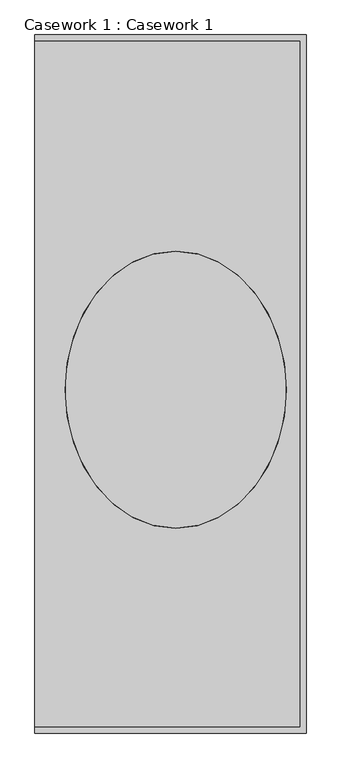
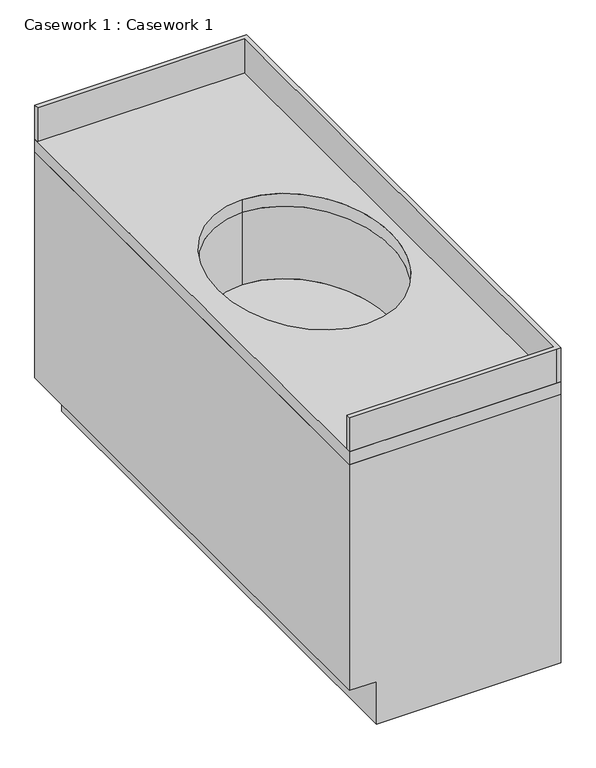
"""IFC4 building model written with IfcOpenShell, lengths in millimetres: furniture geometry, Casework 1 : Casework 1."""

from ifc_helpers import new_model, si_unit, point, frame, origin, place, context, project, spatial, polyline, ellipse_curve, trimmed, outline, extrude, source, transform, mapped, element, save
from ifc_brep_helpers import plane_surface, extruded_surface, advanced_brep


def casework_1_casework_1_399aaf37(model_context):
    return source(origin(), model_context, "Body", "SolidModel", [
        advanced_brep(
        [(-1460.5, 10833.1, 838.2), (-1460.5, 12369.8, 838.2), (-2057.4, 12369.8, 838.2), (-2057.4, 10833.1, 838.2), (-1747.480192, 11283.95, 838.2), (-1747.480192, 11893.55, 838.2), (-1460.5, 10833.1, 800.1), (-2057.4, 10833.1, 800.1), (-2057.4, 12369.8, 800.1), (-1460.5, 12369.8, 800.1), (-1747.480192, 11893.55, 800.1), (-1747.480192, 11283.95, 800.1)],
        [
            (0, 1),
            (1, 2),
            (2, 3),
            (3, 0),
            (4, 5, ellipse_curve(frame((-1747.480192, 11588.75, 838.2), z_axis=(0.0, 0.0, -1.0), x_axis=(0.0, 1.0, 0.0)), 304.8, 243.244808)),
            (5, 4, ellipse_curve(frame((-1747.480192, 11588.75, 838.2), z_axis=(0.0, 0.0, -1.0), x_axis=(0.0, 1.0, 0.0)), 304.8, 243.244808)),
            (6, 7),
            (7, 8),
            (8, 9),
            (9, 6),
            (10, 11, ellipse_curve(frame((-1747.480192, 11588.75, 800.1), z_axis=(0.0, 0.0, 1.0), x_axis=(0.0, 1.0, 0.0)), 304.8, 243.244808)),
            (11, 10, ellipse_curve(frame((-1747.480192, 11588.75, 800.1), z_axis=(0.0, 0.0, 1.0), x_axis=(0.0, 1.0, 0.0)), 304.8, 243.244808)),
            (0, 6),
            (9, 1),
            (8, 2),
            (7, 3),
            (4, 11),
            (10, 5),
        ],
        [
            plane_surface(frame((-1460.5, 12369.8, 838.2), z_axis=(0.0, 0.0, 1.0), x_axis=(0.0, 1.0, 0.0))),
            plane_surface(frame((-1460.5, 12369.8, 800.1), z_axis=(0.0, 0.0, -1.0), x_axis=(0.0, -1.0, 0.0))),
            plane_surface(frame((-1460.5, 10833.1, 838.2), z_axis=(1.0, 0.0, 0.0), x_axis=(0.0, 0.0, -1.0))),
            plane_surface(frame((-1460.5, 12369.8, 838.2), z_axis=(0.0, 1.0, 0.0), x_axis=(0.0, 0.0, -1.0))),
            plane_surface(frame((-2057.4, 12369.8, 838.2), z_axis=(-1.0, 0.0, 0.0), x_axis=(0.0, 0.0, -1.0))),
            plane_surface(frame((-2057.4, 10833.1, 838.2), z_axis=(0.0, -1.0, 0.0), x_axis=(0.0, 0.0, -1.0))),
            extruded_surface(trimmed(ellipse_curve(frame((-1747.480192, 11588.75, 838.2), z_axis=(0.0, 0.0, -1.0), x_axis=(0.0, 1.0, 0.0)), 304.8, 243.244808), [point((-1747.480192, 11283.95, 838.2))], [point((-1747.480192, 11893.55, 838.2))], True, "CARTESIAN"), (0.0, 0.0, 254.0), 254.0),
            extruded_surface(trimmed(ellipse_curve(frame((-1747.480192, 11588.75, 838.2), z_axis=(0.0, 0.0, -1.0), x_axis=(0.0, 1.0, 0.0)), 304.8, 243.244808), [point((-1747.480192, 11893.55, 838.2))], [point((-1747.480192, 11283.95, 838.2))], True, "CARTESIAN"), (0.0, 0.0, 254.0), 254.0),
        ],
        [
            (0, [[1, 2, 3, 4], [5, 6]]),
            (1, [[7, 8, 9, 10], [11, 12]]),
            (2, [[-1, 13, -10, 14]]),
            (3, [[-2, -14, -9, 15]]),
            (4, [[-3, -15, -8, 16]]),
            (5, [[-4, -16, -7, -13]]),
            (6, [[17, -11, 18, -5]]),
            (7, [[-17, -6, -18, -12]]),
        ],
    ),
        extrude(outline(polyline([(-1473.2, 12369.8), (-1460.5, 12369.8), (-1460.5, 10833.1), (-1473.2, 10833.1), (-2057.4, 10833.1), (-2057.4, 10845.8), (-1473.2, 10845.8), (-1473.2, 12357.1), (-2057.4, 12357.1), (-2057.4, 12369.8), (-1473.2, 12369.8)])), frame((0.0, 0.0, 838.2), z_axis=(0.0, 0.0, 1.0), x_axis=(1.0, 0.0, 0.0)), (0.0, 0.0, 1.0), 101.6),
        advanced_brep(
        [(-1460.5, 12369.8, 800.1), (-2057.4, 12369.8, 800.1), (-2057.4, 10833.1, 800.1), (-1460.5, 10833.1, 800.1), (-1747.480192, 11283.95, 800.1), (-1747.480192, 11893.55, 800.1), (-1460.5, 12369.8, 0.0), (-1460.5, 10833.1, 0.0), (-1981.2, 10833.1, 0.0), (-1981.2, 12369.8, 0.0), (-1981.2, 12369.8, 127.0), (-2057.4, 12369.8, 127.0), (-2057.4, 10833.1, 127.0), (-1981.2, 10833.1, 127.0), (-1747.480192, 11283.95, 584.2), (-1747.480192, 11893.55, 584.2)],
        [
            (0, 1),
            (1, 2),
            (2, 3),
            (3, 0),
            (4, 5, ellipse_curve(frame((-1747.480192, 11588.75, 800.1), z_axis=(0.0, 0.0, -1.0), x_axis=(0.0, 1.0, 0.0)), 304.8, 243.244808)),
            (5, 4, ellipse_curve(frame((-1747.480192, 11588.75, 800.1), z_axis=(0.0, 0.0, -1.0), x_axis=(0.0, 1.0, 0.0)), 304.8, 243.244808)),
            (6, 7),
            (7, 8),
            (8, 9),
            (9, 6),
            (0, 6),
            (9, 10),
            (10, 11),
            (11, 1),
            (11, 12),
            (12, 2),
            (12, 13),
            (13, 8),
            (7, 3),
            (13, 10),
            (14, 15, ellipse_curve(frame((-1747.480192, 11588.75, 584.2), z_axis=(0.0, 0.0, 1.0), x_axis=(0.0, 1.0, 0.0)), 304.8, 243.244808)),
            (15, 14, ellipse_curve(frame((-1747.480192, 11588.75, 584.2), z_axis=(0.0, 0.0, 1.0), x_axis=(0.0, 1.0, 0.0)), 304.8, 243.244808)),
            (15, 5),
            (4, 14),
        ],
        [
            plane_surface(frame((-2057.4, 12369.8, 800.1), z_axis=(0.0, 0.0, 1.0), x_axis=(-1.0, 0.0, 0.0))),
            plane_surface(frame((-2057.4, 12369.8, 0.0), z_axis=(0.0, 0.0, -1.0), x_axis=(1.0, 0.0, 0.0))),
            plane_surface(frame((-1460.5, 12369.8, 800.1), z_axis=(0.0, 1.0, 0.0), x_axis=(0.0, 0.0, -1.0))),
            plane_surface(frame((-2057.4, 12369.8, 800.1), z_axis=(-1.0, 0.0, 0.0), x_axis=(0.0, 0.0, -1.0))),
            plane_surface(frame((-2057.4, 10833.1, 800.1), z_axis=(0.0, -1.0, 0.0), x_axis=(0.0, 0.0, -1.0))),
            plane_surface(frame((-1460.5, 10833.1, 800.1), z_axis=(1.0, 0.0, 0.0), x_axis=(0.0, 0.0, -1.0))),
            plane_surface(frame((-1981.2, 12369.8, 0.0), z_axis=(-1.0, 0.0, 0.0), x_axis=(0.0, 0.0, 1.0))),
            plane_surface(frame((-1981.2, 12369.8, 127.0), z_axis=(0.0, 0.0, -1.0), x_axis=(-1.0, 0.0, 0.0))),
            plane_surface(frame((-1747.480192, 11893.55, 584.2), z_axis=(0.0, 0.0, 1.0), x_axis=(1.0, 0.0, 0.0))),
            extruded_surface(trimmed(ellipse_curve(frame((-1747.480192, 11588.75, 838.2), z_axis=(0.0, 0.0, -1.0), x_axis=(0.0, 1.0, 0.0)), 304.8, 243.244808), [point((-1747.480192, 11283.95, 838.2))], [point((-1747.480192, 11893.55, 838.2))], True, "CARTESIAN"), (0.0, 0.0, 254.0), 254.0),
            extruded_surface(trimmed(ellipse_curve(frame((-1747.480192, 11588.75, 838.2), z_axis=(0.0, 0.0, -1.0), x_axis=(0.0, 1.0, 0.0)), 304.8, 243.244808), [point((-1747.480192, 11893.55, 838.2))], [point((-1747.480192, 11283.95, 838.2))], True, "CARTESIAN"), (0.0, 0.0, 254.0), 254.0),
        ],
        [
            (0, [[1, 2, 3, 4], [5, 6]]),
            (1, [[7, 8, 9, 10]]),
            (2, [[-1, 11, -10, 12, 13, 14]]),
            (3, [[-2, -14, 15, 16]]),
            (4, [[-3, -16, 17, 18, -8, 19]]),
            (5, [[-4, -19, -7, -11]]),
            (6, [[20, -12, -9, -18]]),
            (7, [[-20, -17, -15, -13]]),
            (8, [[21, 22]]),
            (9, [[-22, 23, -5, 24]]),
            (10, [[-21, -24, -6, -23]]),
        ],
    ),
    ])


if __name__ == "__main__":
    model = new_model("IFC4")
    model_context = context("Model", 3, world=origin())
    ifc_project = project(units=[si_unit("LENGTHUNIT", "METRE", prefix="MILLI")], contexts=[model_context])
    site = spatial("IfcSite", under=ifc_project)
    building = spatial("IfcBuilding", under=site)
    placement = place(None, origin())
    casework_1_casework_1_shape = casework_1_casework_1_399aaf37(model_context)
    element("IfcFurniture", 1, ObjectType="Casework 1 : Casework 1", at=placement, inside=building, context=model_context, shape_type="MappedRepresentation", body=[
        mapped(casework_1_casework_1_shape, transform((0.0, 0.0, 0.0), x_axis=(1.0, 0.0, 0.0), y_axis=(0.0, 1.0, 0.0), z_axis=(0.0, 0.0, 1.0))),
    ])
    save(model, "model.ifc")
